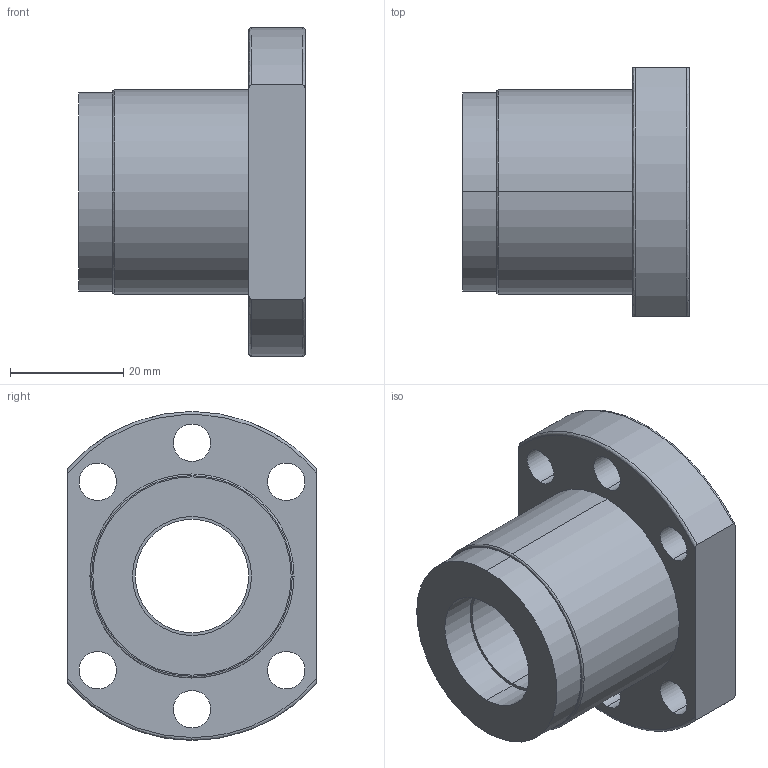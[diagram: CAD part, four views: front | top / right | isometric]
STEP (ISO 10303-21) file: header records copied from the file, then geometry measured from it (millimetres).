
FILE_DESCRIPTION (( 'STEP AP214' ), '1' );
FILE_NAME ('2.3003 Kuularuuvimutteri SFS2005-3,8.STEP', '2024-05-03T10:51:04', ( '' ), ( '' ), 'SwSTEP 2.0', 'SolidWorks 2024', '' );
FILE_SCHEMA (( 'AUTOMOTIVE_DESIGN' ));
Length unit declared in the file: millimetre
Products named in the file (1): 2.3003 Kuularuuvimutteri SFS2005-3,8
Bounding box: 40 x 44 x 58 mm (x, y, z)
Volume: 37456.2 mm3; surface area: 14952.9 mm2
Topology: 2 solids, 2 shells, 50 faces, 123 edges, 82 vertices
Faces by surface type: cylinder 31, plane 11, bspline 8
Entity records: 2148 total; most frequent: CARTESIAN_POINT 835, DIRECTION 259, ORIENTED_EDGE 246, EDGE_CURVE 123, AXIS2_PLACEMENT_3D 111, VERTEX_POINT 82, EDGE_LOOP 71, CIRCLE 68
